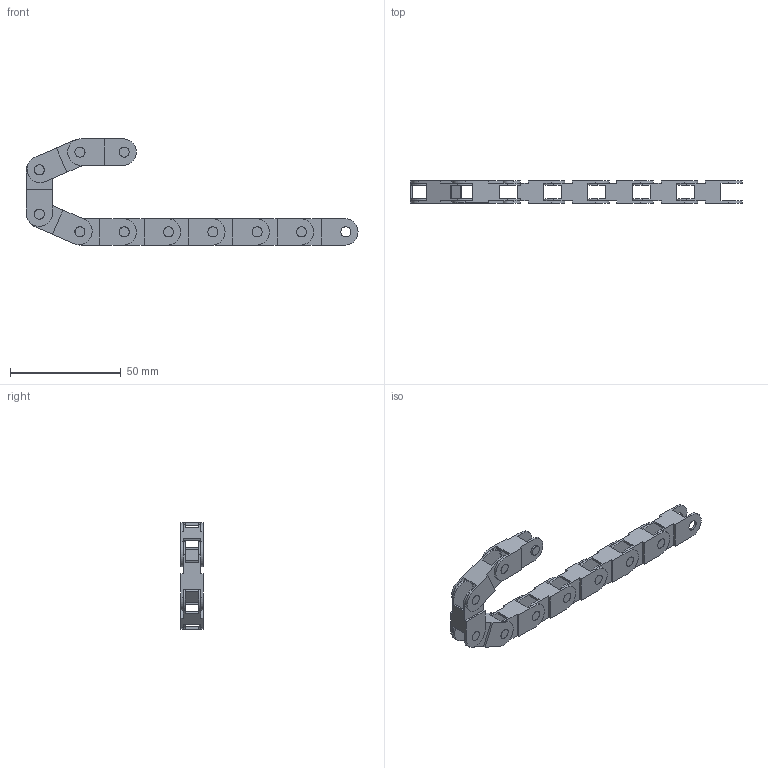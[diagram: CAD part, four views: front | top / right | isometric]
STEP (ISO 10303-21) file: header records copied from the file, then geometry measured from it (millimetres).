
FILE_DESCRIPTION(/* description */ (''),/* implementation_level */ '2;1');
FILE_NAME(/* name */ 'e-chain cable carrier .step',/* time_stamp */ '2022-12-29T15:54:44-08:00',/* author */ (''),/* organization */ (''),/* preprocessor_version */ 'ST-DEVELOPER v19.2',/* originating_system */ 'Autodesk Translation Framework v11.17.0.187',/* authorisation */ '');
FILE_SCHEMA (('AUTOMOTIVE_DESIGN { 1 0 10303 214 3 1 1 }'));
Length unit declared in the file: millimetre
Products named in the file (11): e-chain cable carrier; 2022_12_06_21_18_26_0173; 2022_12_06_21_18_26_0142; 2022_12_06_21_18_26_0111; 2022_12_06_21_18_26_0048; 2022_12_06_21_18_26_0017; 2022_12_06_21_18_25_0986; 2022_12_06_21_18_25_0954; 2022_12_06_21_18_25_0923; 2022_12_06_21_18_25_0892; 2022_12_06_21_18_25_0861
Assembly tree (10 placements, depth 2):
  e-chain cable carrier
    2022_12_06_21_18_26_0173
    2022_12_06_21_18_26_0142
    2022_12_06_21_18_26_0111
    2022_12_06_21_18_26_0048
    2022_12_06_21_18_26_0017
    2022_12_06_21_18_25_0986
    2022_12_06_21_18_25_0954
    2022_12_06_21_18_25_0923
    2022_12_06_21_18_25_0892
    2022_12_06_21_18_25_0861
Bounding box: 149.83 x 10 x 48 mm (x, y, z)
Volume: 9638.1 mm3; surface area: 18491.1 mm2
Topology: 10 solids, 10 shells, 300 faces, 840 edges, 560 vertices
Faces by surface type: plane 200, cylinder 100
Full cylindrical faces by diameter (mm): 4.5 x20, 4.6 x20
Entity records: 10112 total; most frequent: CARTESIAN_POINT 1721, DIRECTION 1682, ORIENTED_EDGE 1680, EDGE_CURVE 840, LINE 640, VECTOR 640, VERTEX_POINT 560, AXIS2_PLACEMENT_3D 521
